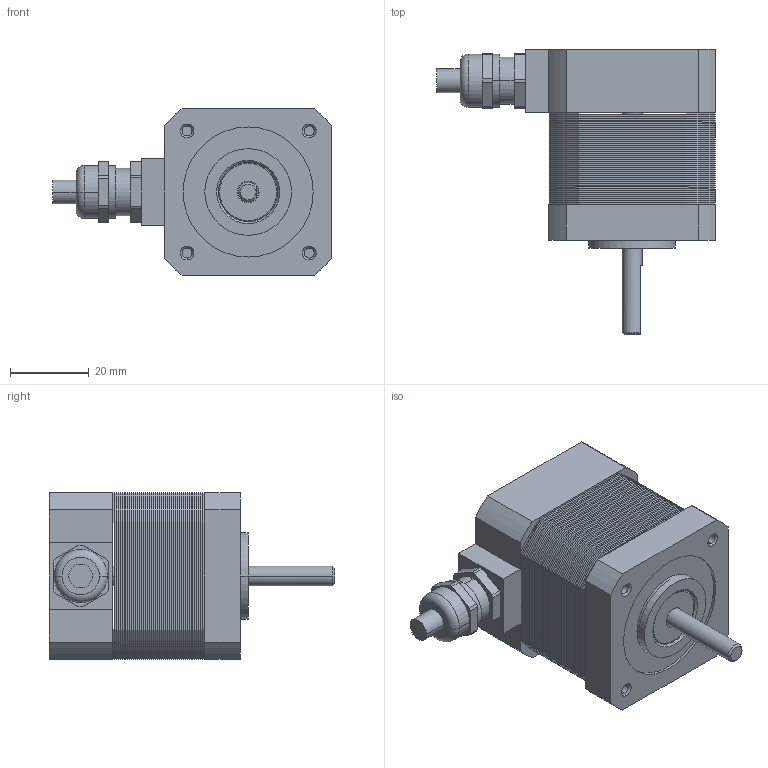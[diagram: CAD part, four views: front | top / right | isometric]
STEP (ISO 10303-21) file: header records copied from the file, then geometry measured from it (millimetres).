
FILE_DESCRIPTION((''),'2;1');
FILE_NAME('3_1_01_042_1842_SW0004','2021-11-29T10:49:18',('yangle'),(''),'CREO PARAMETRIC BY PTC INC, 2017110','CREO PARAMETRIC BY PTC INC, 2017110','');
FILE_SCHEMA(('CONFIG_CONTROL_DESIGN'));
Length unit declared in the file: millimetre
Products named in the file (1): 3_1_01_042_1842_SW0004
Bounding box: 70.8 x 72.5 x 42.3 mm (x, y, z)
Surface area: 15612.4 mm2 (no closed solid volume)
Topology: 0 solids, 63 shells, 529 faces, 2116 edges, 1582 vertices
Faces by surface type: plane 261, cylinder 242, cone 12, sphere 8, torus 6
Entity records: 22024 total; most frequent: CARTESIAN_POINT 4446, DIRECTION 4020, ORIENTED_EDGE 2810, EDGE_CURVE 2116, VERTEX_POINT 1582, AXIS2_PLACEMENT_3D 1393, VECTOR 1234, LINE 1234
